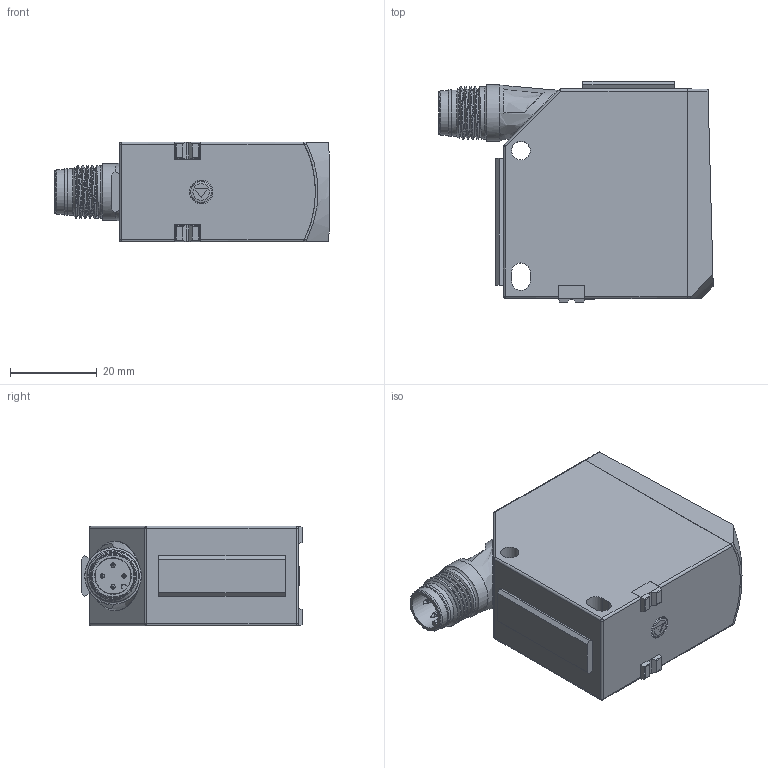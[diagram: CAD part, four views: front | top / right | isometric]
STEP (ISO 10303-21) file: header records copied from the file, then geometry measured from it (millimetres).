
FILE_DESCRIPTION((''),'2;1');
FILE_NAME('C:\ProgramData\Autodesk\Productstream Professional 2011\AttTemp.stp','2013-05-23T11:15:14',('ss'),(''),'Autodesk Inventor 2011','Autodesk Inventor 2011','');
FILE_SCHEMA(('AUTOMOTIVE_DESIGN { 1 2 10303 214 0 1 1 1 }'));
Length unit declared in the file: millimetre
Products named in the file (1): WI-ENG-0001898
Bounding box: 63.17 x 51 x 23 mm (x, y, z)
Surface area: 11947 mm2 (no closed solid volume)
Topology: 0 solids, 17 shells, 144 faces, 450 edges, 317 vertices
Faces by surface type: plane 67, cylinder 44, cone 11, bspline 11, sphere 7, torus 4
Full cylindrical faces by diameter (mm): 1 x4, 4.3 x1, 8.4 x1, 10.3 x1, 10.6 x1, 10.8 x1, 12 x4, 13 x1, 16 x1
Entity records: 6654 total; most frequent: CARTESIAN_POINT 2717, DIRECTION 750, ORIENTED_EDGE 655, EDGE_CURVE 404, VERTEX_POINT 302, AXIS2_PLACEMENT_3D 253, VECTOR 244, LINE 244
